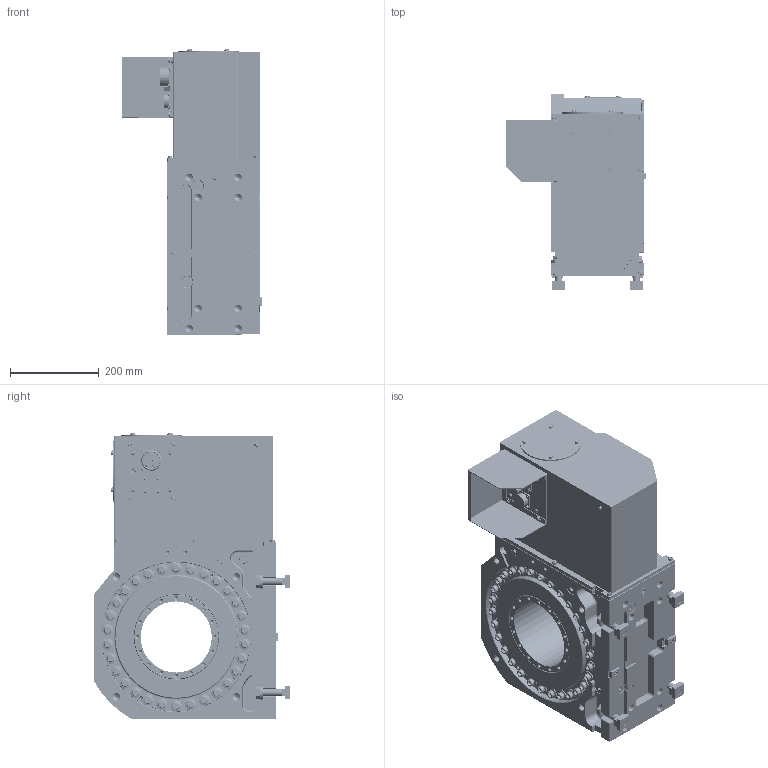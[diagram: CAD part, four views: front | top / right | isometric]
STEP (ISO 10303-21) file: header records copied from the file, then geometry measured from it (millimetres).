
FILE_DESCRIPTION (( 'STEP AP214' ), '1' );
FILE_NAME ('OUTSIDE_VIEW(61E291388)MK350LHF--.STEP', '2021-10-15T01:34:59', ( '' ), ( '' ), 'SwSTEP 2.0', 'SolidWorks 2020', '' );
FILE_SCHEMA (( 'AUTOMOTIVE_DESIGN' ));
Length unit declared in the file: millimetre
Products named in the file (5): TABLE_MK350LH00; OUTSIDE_VIEW(61E291388)MK350LHF--; 儌乕僞働乕僗PAD_MK350LHF--A8; クランプクミタテ(61E488758); BODY_MK350LH00
Assembly tree (7 placements, depth 2):
  OUTSIDE_VIEW(61E291388)MK350LHF--
    BODY_MK350LH00
    TABLE_MK350LH00
    儌乕僞働乕僗PAD_MK350LHF--A8
    クランプクミタテ(61E488758)  x4
Bounding box: 317 x 441 x 645 mm (x, y, z)
Volume: 40270796.3 mm3; surface area: 1970594.2 mm2
Topology: 7 solids, 121 shells, 5450 faces, 13446 edges, 8434 vertices
Faces by surface type: plane 2888, cylinder 1461, cone 950, torus 99, sphere 39, bspline 13
Entity records: 161182 total; most frequent: CARTESIAN_POINT 31158, DIRECTION 27127, ORIENTED_EDGE 25824, EDGE_CURVE 12912, AXIS2_PLACEMENT_3D 9209, VECTOR 8709, LINE 8709, VERTEX_POINT 8234
